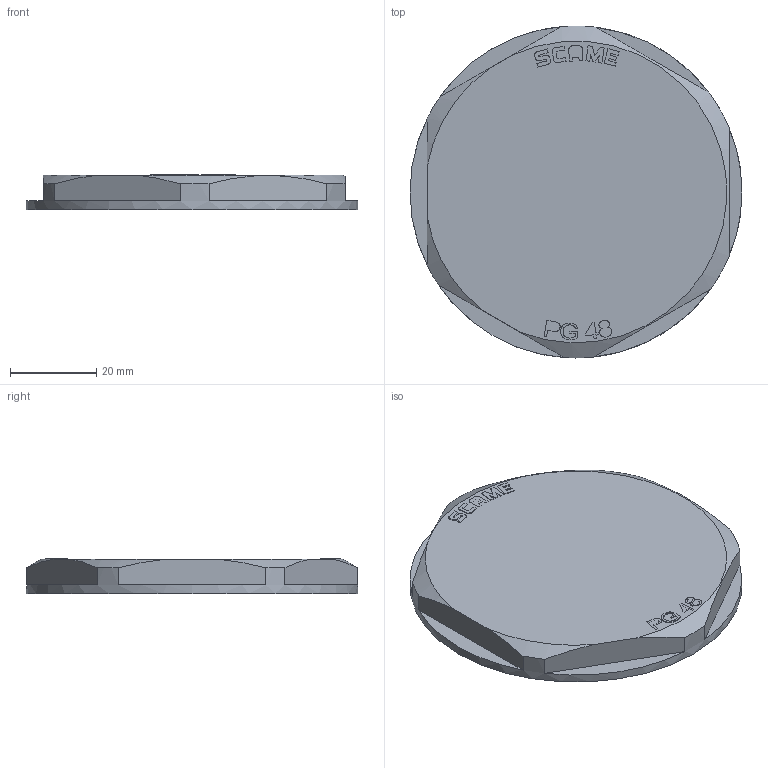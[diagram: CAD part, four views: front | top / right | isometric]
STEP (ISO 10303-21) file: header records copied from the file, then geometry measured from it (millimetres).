
FILE_DESCRIPTION(/* description */ (''),/* implementation_level */ '2;1');
FILE_NAME(/* name */ '4004443.stp',/* time_stamp */ '2016-09-26T09:16:35+02:00',/* author */ (''),/* organization */ (''),/* preprocessor_version */ 'ST-DEVELOPER v16',/* originating_system */ 'SIEMENS PLM Software NX 11.0',/* authorisation */ '');
FILE_SCHEMA (('AUTOMOTIVE_DESIGN { 1 0 10303 214 3 1 1 1 }'));
Length unit declared in the file: millimetre
Products named in the file (1): 4004443_LINKEDEXT_jt
Bounding box: 77 x 77 x 8.15 mm (x, y, z)
Surface area: 14304.9 mm2 (no closed solid volume)
Topology: 0 solids, 11 shells, 42 faces, 268 edges, 235 vertices
Faces by surface type: plane 37, cone 3, extrusion 1, cylinder 1
Full cylindrical faces by diameter (mm): 77 x1
Entity records: 2844 total; most frequent: CARTESIAN_POINT 917, ORIENTED_EDGE 331, DIRECTION 303, EDGE_CURVE 266, VERTEX_POINT 234, VECTOR 137, LINE 136, B_SPLINE_CURVE_WITH_KNOTS 90
